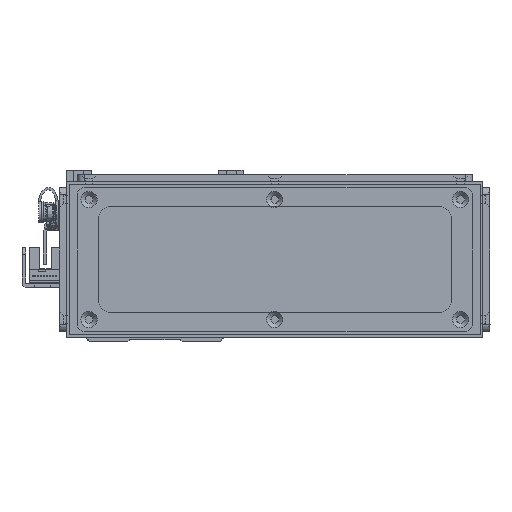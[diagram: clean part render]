
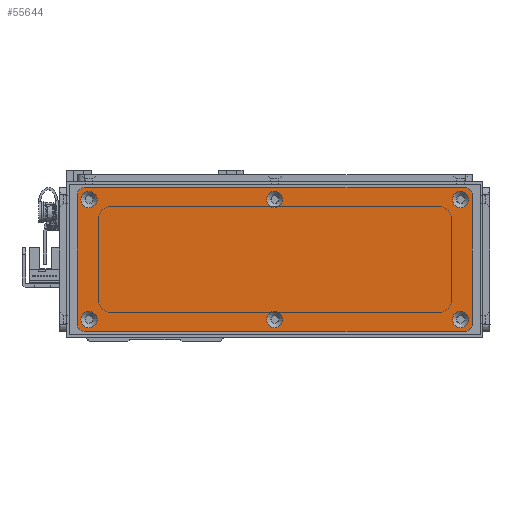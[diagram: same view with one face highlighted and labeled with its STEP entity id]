
A CAD part, left-side view. The second image highlights one B-rep face of the part: STEP entity #55644.
In plain terms, the highlighted planar face has unit normal (-1, 0, 0) as drawn and (0, 0, 1) by its records, which use the part's own axes.
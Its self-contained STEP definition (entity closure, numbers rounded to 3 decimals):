
#2719=FACE_BOUND('',#9344,.T.);
#2720=FACE_BOUND('',#9345,.T.);
#2721=FACE_BOUND('',#9346,.T.);
#2722=FACE_BOUND('',#9347,.T.);
#2723=FACE_BOUND('',#9348,.T.);
#2724=FACE_BOUND('',#9349,.T.);
#3364=PLANE('',#60095);
#6076=FACE_OUTER_BOUND('',#9343,.T.);
#9343=EDGE_LOOP('',(#44015,#44016,#44017,#44018,#44019,#44020,#44021,#44022));
#9344=EDGE_LOOP('',(#44023));
#9345=EDGE_LOOP('',(#44024));
#9346=EDGE_LOOP('',(#44025));
#9347=EDGE_LOOP('',(#44026));
#9348=EDGE_LOOP('',(#44027));
#9349=EDGE_LOOP('',(#44028));
#12918=LINE('',#83733,#19207);
#12921=LINE('',#83741,#19210);
#12924=LINE('',#83749,#19213);
#12927=LINE('',#83756,#19216);
#19207=VECTOR('',#68359,10.);
#19210=VECTOR('',#68368,10.);
#19213=VECTOR('',#68377,10.);
#19216=VECTOR('',#68386,10.);
#24917=CIRCLE('',#60049,3.45);
#24920=CIRCLE('',#60054,3.45);
#24923=CIRCLE('',#60059,3.45);
#24926=CIRCLE('',#60064,3.45);
#24929=CIRCLE('',#60069,3.45);
#24932=CIRCLE('',#60074,3.45);
#24939=CIRCLE('',#60084,3.);
#24940=CIRCLE('',#60087,3.);
#24941=CIRCLE('',#60090,3.);
#24942=CIRCLE('',#60093,3.);
#27094=VERTEX_POINT('',#83649);
#27097=VERTEX_POINT('',#83659);
#27100=VERTEX_POINT('',#83669);
#27103=VERTEX_POINT('',#83679);
#27106=VERTEX_POINT('',#83689);
#27109=VERTEX_POINT('',#83699);
#27120=VERTEX_POINT('',#83726);
#27121=VERTEX_POINT('',#83728);
#27122=VERTEX_POINT('',#83732);
#27123=VERTEX_POINT('',#83736);
#27124=VERTEX_POINT('',#83740);
#27125=VERTEX_POINT('',#83744);
#27126=VERTEX_POINT('',#83748);
#27127=VERTEX_POINT('',#83752);
#33254=EDGE_CURVE('',#27094,#27094,#24917,.T.);
#33259=EDGE_CURVE('',#27097,#27097,#24920,.T.);
#33264=EDGE_CURVE('',#27100,#27100,#24923,.T.);
#33269=EDGE_CURVE('',#27103,#27103,#24926,.T.);
#33274=EDGE_CURVE('',#27106,#27106,#24929,.T.);
#33279=EDGE_CURVE('',#27109,#27109,#24932,.T.);
#33293=EDGE_CURVE('',#27121,#27120,#24939,.T.);
#33295=EDGE_CURVE('',#27122,#27121,#12918,.T.);
#33297=EDGE_CURVE('',#27123,#27122,#24940,.T.);
#33299=EDGE_CURVE('',#27124,#27123,#12921,.T.);
#33301=EDGE_CURVE('',#27125,#27124,#24941,.T.);
#33303=EDGE_CURVE('',#27126,#27125,#12924,.T.);
#33305=EDGE_CURVE('',#27127,#27126,#24942,.T.);
#33307=EDGE_CURVE('',#27120,#27127,#12927,.T.);
#44015=ORIENTED_EDGE('',*,*,#33307,.T.);
#44016=ORIENTED_EDGE('',*,*,#33305,.T.);
#44017=ORIENTED_EDGE('',*,*,#33303,.T.);
#44018=ORIENTED_EDGE('',*,*,#33301,.T.);
#44019=ORIENTED_EDGE('',*,*,#33299,.T.);
#44020=ORIENTED_EDGE('',*,*,#33297,.T.);
#44021=ORIENTED_EDGE('',*,*,#33295,.T.);
#44022=ORIENTED_EDGE('',*,*,#33293,.T.);
#44023=ORIENTED_EDGE('',*,*,#33254,.T.);
#44024=ORIENTED_EDGE('',*,*,#33259,.T.);
#44025=ORIENTED_EDGE('',*,*,#33264,.T.);
#44026=ORIENTED_EDGE('',*,*,#33269,.T.);
#44027=ORIENTED_EDGE('',*,*,#33274,.T.);
#44028=ORIENTED_EDGE('',*,*,#33279,.T.);
#55644=ADVANCED_FACE('',(#6076,#2719,#2720,#2721,#2722,#2723,#2724),#3364,
 .T.);
#60049=AXIS2_PLACEMENT_3D('',#83650,#68267,#68268);
#60054=AXIS2_PLACEMENT_3D('',#83660,#68279,#68280);
#60059=AXIS2_PLACEMENT_3D('',#83670,#68291,#68292);
#60064=AXIS2_PLACEMENT_3D('',#83680,#68303,#68304);
#60069=AXIS2_PLACEMENT_3D('',#83690,#68315,#68316);
#60074=AXIS2_PLACEMENT_3D('',#83700,#68327,#68328);
#60084=AXIS2_PLACEMENT_3D('',#83729,#68354,#68355);
#60087=AXIS2_PLACEMENT_3D('',#83737,#68363,#68364);
#60090=AXIS2_PLACEMENT_3D('',#83745,#68372,#68373);
#60093=AXIS2_PLACEMENT_3D('',#83753,#68381,#68382);
#60095=AXIS2_PLACEMENT_3D('',#83757,#68387,#68388);
#68267=DIRECTION('center_axis',(0.,0.,-1.));
#68268=DIRECTION('ref_axis',(1.,0.,0.));
#68279=DIRECTION('center_axis',(0.,0.,-1.));
#68280=DIRECTION('ref_axis',(1.,0.,0.));
#68291=DIRECTION('center_axis',(0.,0.,-1.));
#68292=DIRECTION('ref_axis',(1.,0.,0.));
#68303=DIRECTION('center_axis',(0.,0.,-1.));
#68304=DIRECTION('ref_axis',(1.,0.,0.));
#68315=DIRECTION('center_axis',(0.,0.,-1.));
#68316=DIRECTION('ref_axis',(1.,0.,0.));
#68327=DIRECTION('center_axis',(0.,0.,-1.));
#68328=DIRECTION('ref_axis',(1.,0.,0.));
#68354=DIRECTION('center_axis',(0.,0.,1.));
#68355=DIRECTION('ref_axis',(-1.,0.,0.));
#68359=DIRECTION('',(0.,1.,0.));
#68363=DIRECTION('center_axis',(0.,0.,1.));
#68364=DIRECTION('ref_axis',(0.,1.,0.));
#68368=DIRECTION('',(1.,0.,0.));
#68372=DIRECTION('center_axis',(0.,0.,1.));
#68373=DIRECTION('ref_axis',(1.,0.,0.));
#68377=DIRECTION('',(0.,-1.,0.));
#68381=DIRECTION('center_axis',(0.,0.,1.));
#68382=DIRECTION('ref_axis',(0.,-1.,0.));
#68386=DIRECTION('',(-1.,0.,0.));
#68387=DIRECTION('center_axis',(0.,0.,1.));
#68388=DIRECTION('ref_axis',(1.,0.,0.));
#83649=CARTESIAN_POINT('',(-3.45,25.5,1.5));
#83650=CARTESIAN_POINT('Origin',(0.,25.5,1.5));
#83659=CARTESIAN_POINT('',(75.55,-25.5,1.5));
#83660=CARTESIAN_POINT('Origin',(79.,-25.5,1.5));
#83669=CARTESIAN_POINT('',(-82.45,25.5,1.5));
#83670=CARTESIAN_POINT('Origin',(-79.,25.5,1.5));
#83679=CARTESIAN_POINT('',(75.55,25.5,1.5));
#83680=CARTESIAN_POINT('Origin',(79.,25.5,1.5));
#83689=CARTESIAN_POINT('',(-82.45,-25.5,1.5));
#83690=CARTESIAN_POINT('Origin',(-79.,-25.5,1.5));
#83699=CARTESIAN_POINT('',(-3.45,-25.5,1.5));
#83700=CARTESIAN_POINT('Origin',(0.,-25.5,1.5));
#83726=CARTESIAN_POINT('',(81.,30.5,1.5));
#83728=CARTESIAN_POINT('',(84.,27.5,1.5));
#83729=CARTESIAN_POINT('Origin',(81.,27.5,1.5));
#83732=CARTESIAN_POINT('',(84.,-27.5,1.5));
#83733=CARTESIAN_POINT('',(84.,27.5,1.5));
#83736=CARTESIAN_POINT('',(81.,-30.5,1.5));
#83737=CARTESIAN_POINT('Origin',(81.,-27.5,1.5));
#83740=CARTESIAN_POINT('',(-81.,-30.5,1.5));
#83741=CARTESIAN_POINT('',(81.,-30.5,1.5));
#83744=CARTESIAN_POINT('',(-84.,-27.5,1.5));
#83745=CARTESIAN_POINT('Origin',(-81.,-27.5,1.5));
#83748=CARTESIAN_POINT('',(-84.,27.5,1.5));
#83749=CARTESIAN_POINT('',(-84.,-27.5,1.5));
#83752=CARTESIAN_POINT('',(-81.,30.5,1.5));
#83753=CARTESIAN_POINT('Origin',(-81.,27.5,1.5));
#83756=CARTESIAN_POINT('',(-81.,30.5,1.5));
#83757=CARTESIAN_POINT('Origin',(0.,0.,
1.5));
